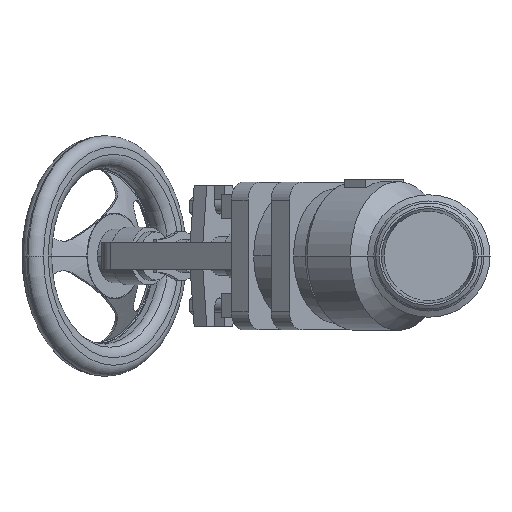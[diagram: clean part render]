
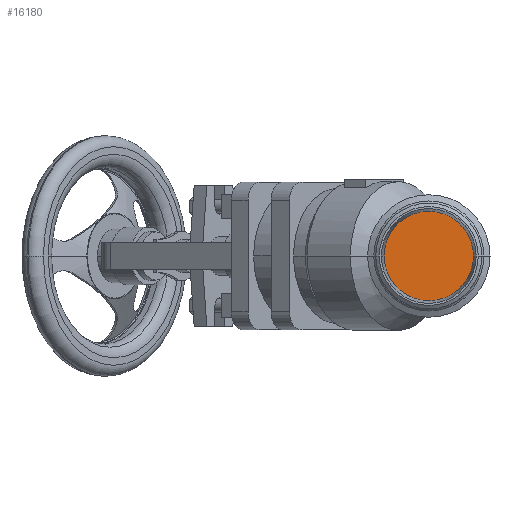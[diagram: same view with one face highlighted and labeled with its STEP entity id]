
A CAD part, left-side view. The second image highlights one B-rep face of the part: STEP entity #16180.
In plain terms, the highlighted planar face has unit normal (-1, 0, 0).
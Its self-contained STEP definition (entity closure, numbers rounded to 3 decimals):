
#2910=CARTESIAN_POINT('',(11.059,32.5,0.));
#2920=VERTEX_POINT('',#2910);
#2970=CARTESIAN_POINT('',(11.059,0.,0.));
#2980=DIRECTION('',(-1.,0.,0.));
#2990=DIRECTION('',(0.,1.,0.));
#3000=AXIS2_PLACEMENT_3D('',#2970,#2980,#2990);
#3010=CIRCLE('',#3000,32.5);
#3020=CARTESIAN_POINT('',(11.059,-32.5,0.));
#3030=VERTEX_POINT('',#3020);
#3040=EDGE_CURVE('',#2920,#3030,#3010,.T.);
#16080=CARTESIAN_POINT('',(11.059,16.25,0.)
);
#16090=DIRECTION('',(-1.,0.,0.));
#16100=DIRECTION('',(0.,1.,0.));
#16110=AXIS2_PLACEMENT_3D('',#16080,#16090,#16100);
#16120=PLANE('',#16110);
#16130=EDGE_CURVE('',#3030,#2920,#3010,.T.);
#16140=ORIENTED_EDGE('',*,*,#16130,.T.);
#16150=ORIENTED_EDGE('',*,*,#3040,.T.);
#16160=EDGE_LOOP('',(#16150,#16140));
#16170=FACE_OUTER_BOUND('',#16160,.T.);
#16180=ADVANCED_FACE('',(#16170),#16120,.T.);
